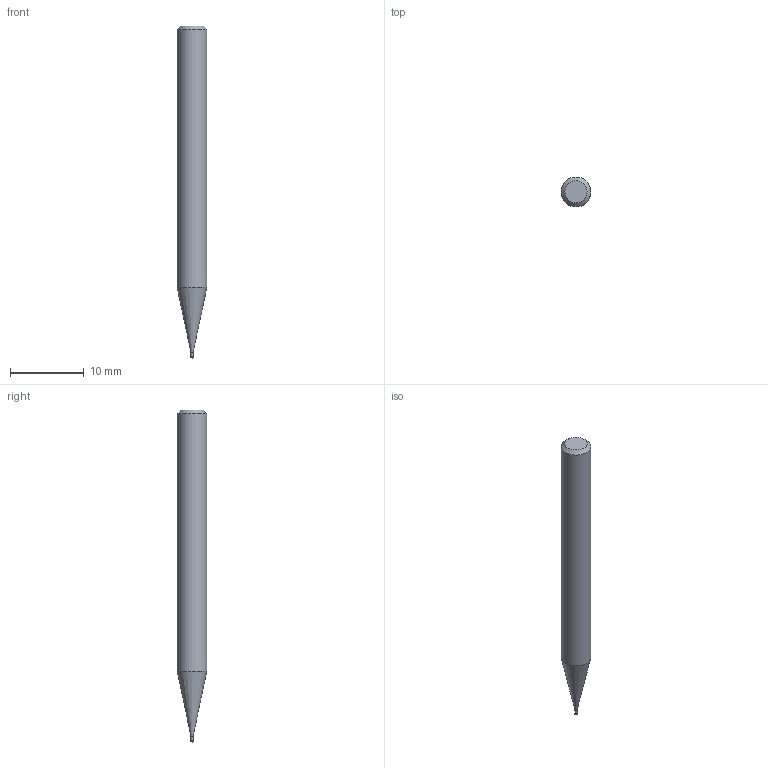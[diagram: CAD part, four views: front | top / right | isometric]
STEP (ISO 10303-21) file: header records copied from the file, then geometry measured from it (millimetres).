
FILE_DESCRIPTION((''),'2;1');
FILE_NAME('C:\Users\nsx150\AppData\Local\Temp\Mastercam 2021\AP8FW4WOPM\TEMP.step','2024-10-16T18:39:52',(''),(''),'STEP Write','Mastercam 2021 ... CNC Software, Inc.','');
FILE_SCHEMA(('AUTOMOTIVE_DESIGN'));
Length unit declared in the file: millimetre
Products named in the file (1): None
Bounding box: 4 x 4 x 45 mm (x, y, z)
Volume: 484.1 mm3; surface area: 515.6 mm2
Topology: 2 solids, 2 shells, 9 faces, 14 edges, 8 vertices
Faces by surface type: plane 3, cylinder 3, cone 2, sphere 1
Full cylindrical faces by diameter (mm): 0.28 x1, 0.3 x1, 4 x1
Entity records: 211 total; most frequent: DIRECTION 36, CARTESIAN_POINT 25, AXIS2_PLACEMENT_3D 18, ORIENTED_EDGE 14, EDGE_LOOP 14, STYLED_ITEM 12, ADVANCED_FACE 9, FACE_BOUND 8
